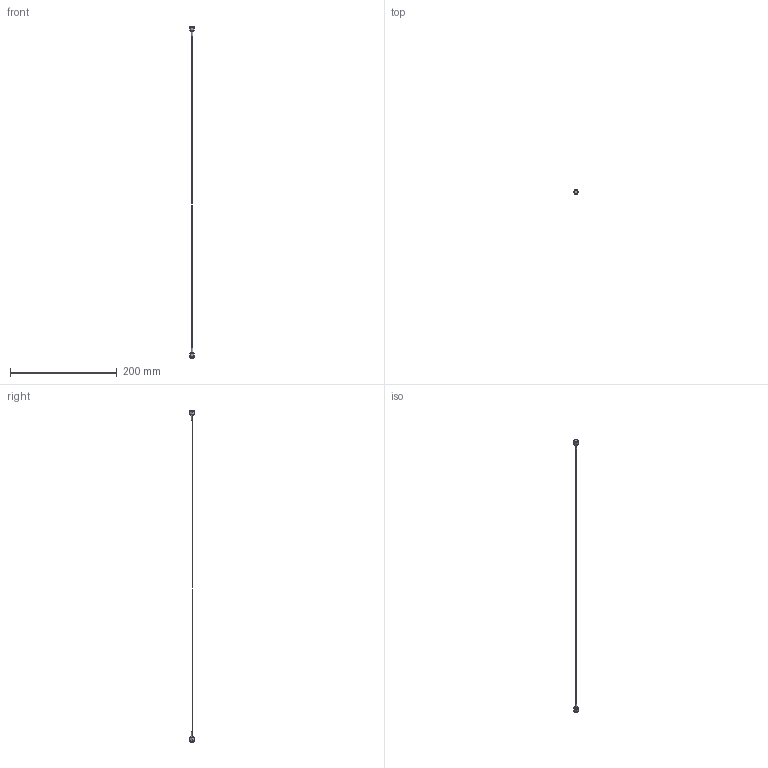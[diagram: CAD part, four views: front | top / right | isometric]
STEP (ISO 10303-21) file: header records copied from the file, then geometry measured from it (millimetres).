
FILE_DESCRIPTION (( 'STEP AP214' ), '1' );
FILE_NAME ('7029-2557.STEP', '2018-09-12T13:27:26', ( '' ), ( '' ), 'SwSTEP 2.0', 'SolidWorks 2016', '' );
FILE_SCHEMA (( 'AUTOMOTIVE_DESIGN' ));
Length unit declared in the file: inch
Products named in the file (1): 7029-2557
Bounding box: 9.15 x 7.92 x 622.18 mm (x, y, z)
Volume: 2060.3 mm3; surface area: 3574.3 mm2
Topology: 1 solids, 1 shells, 75 faces, 180 edges, 116 vertices
Faces by surface type: plane 31, cylinder 20, cone 20, torus 4
Entity records: 3302 total; most frequent: CARTESIAN_POINT 588, DIRECTION 364, ORIENTED_EDGE 360, EDGE_CURVE 180, AXIS2_PLACEMENT_3D 148, VERTEX_POINT 116, EDGE_LOOP 84, ADVANCED_FACE 75
